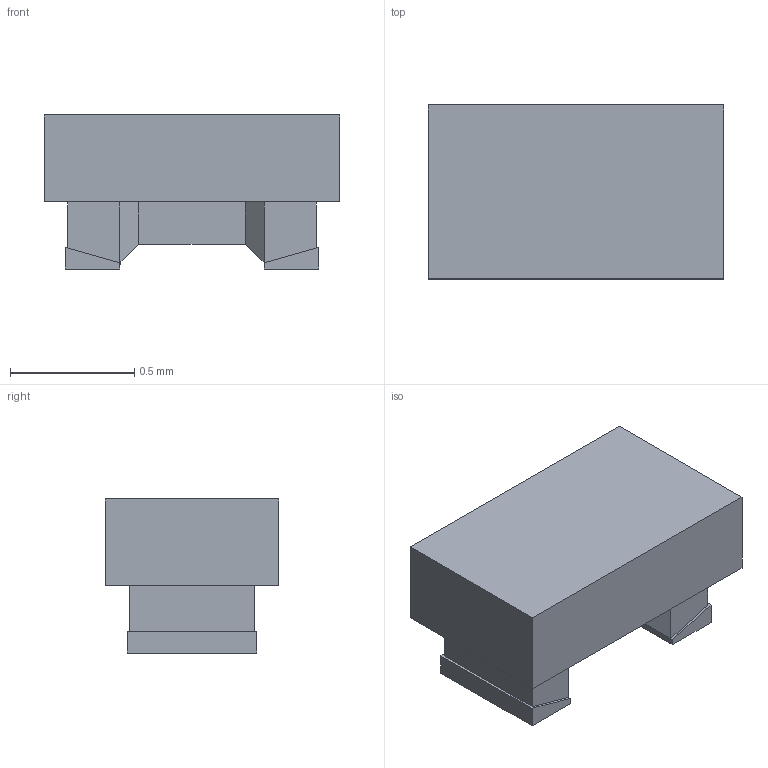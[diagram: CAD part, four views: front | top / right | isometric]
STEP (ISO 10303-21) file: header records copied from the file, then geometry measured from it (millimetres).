
FILE_DESCRIPTION(('STEP AP203'), '1');
FILE_NAME('ÊIF 1005 (0402)', '', ('UNSPECIFIED'), ('UNSPECIFIED'), 'ASCON STEP Converter 1.6', 'ASCON Math Kernel', '');
FILE_SCHEMA(('CONFIG_CONTROL_DESIGN'));
Length unit declared in the file: millimetre
Assembly tree (1 placements, depth 2):
  (unnamed)
    (unnamed)
Bounding box: 1.19 x 0.7 x 0.62 mm (x, y, z)
Volume: 0.4 mm3; surface area: 3.9 mm2
Topology: 1 solids, 2 shells, 59 faces, 144 edges, 90 vertices
Faces by surface type: plane 55, cylinder 4
Entity records: 2244 total; most frequent: CARTESIAN_POINT 301, ORIENTED_EDGE 288, DIRECTION 268, EDGE_CURVE 144, LINE 130, VECTOR 130, VERTEX_POINT 90, AXIS2_PLACEMENT_3D 69
